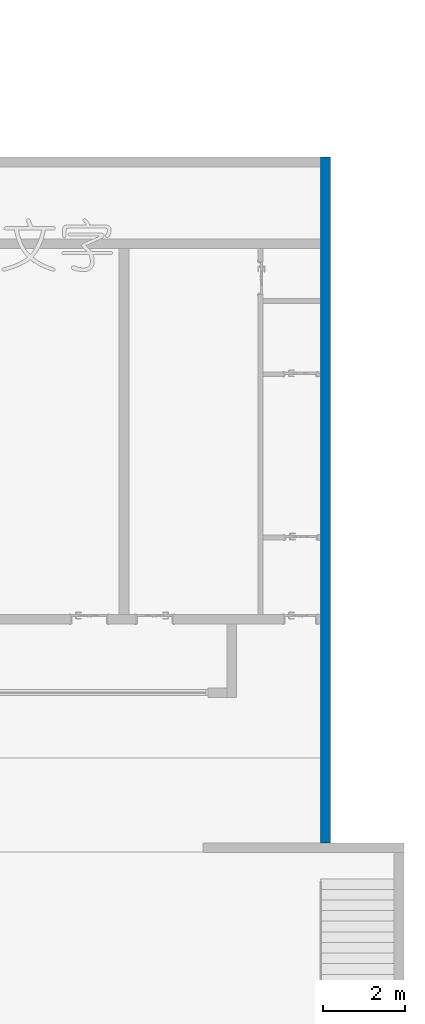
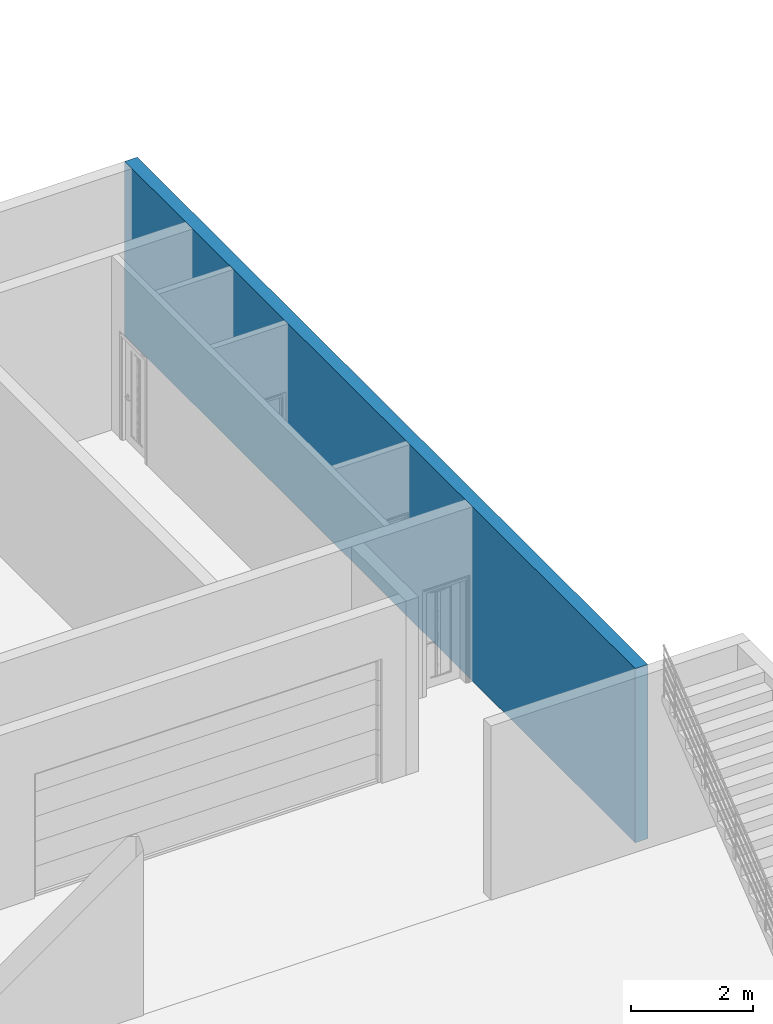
# One storey, part 14 of 24: 1 wall.
"""IFC2X3 building model written with IfcOpenShell, lengths in millimetres."""

import ifcopenshell
import ifcopenshell.guid

model = None  # the IFC model being written
_history = None  # IfcOwnerHistory: only IFC2X3 demands one
_inside = {}  # id of a spatial element -> (the spatial element, [elements in it])
_under = {}  # id of a project, library or spatial element -> (it, [spatial elements below it])
_declared = {}  # id of a project -> (the project, [libraries it declares])
_typed = {}  # id of a type object -> (the type object, [elements of that type])
_made_of = {}  # id of a material, layer set ... -> (it, [elements and type objects made of it])


def new_model(schema):
    """Start an empty IFC model of exactly this schema.

    Asked for "IFC4X3", IfcOpenShell would pick the latest addendum, in which some entities
    have other attributes; the version numbers below select the first issue.
    IFC2X3 requires an IfcOwnerHistory on every rooted entity: one is made here for all.
    """
    global model, _history
    if schema == "IFC4X3":
        model = ifcopenshell.file(schema_version=(4, 3, 0, 0))
    else:
        model = ifcopenshell.file(schema=schema)
    _inside.clear()
    _under.clear()
    _declared.clear()
    _typed.clear()
    _made_of.clear()
    _history = None
    if model.schema == "IFC2X3":
        org = make("IfcOrganization", Name="unknown")
        user = make(
            "IfcPersonAndOrganization",
            ThePerson=make("IfcPerson", FamilyName="unknown"),
            TheOrganization=org,
        )
        app = make(
            "IfcApplication",
            ApplicationDeveloper=org,
            Version="unknown",
            ApplicationFullName="unknown",
            ApplicationIdentifier="unknown",
        )
        _history = make(
            "IfcOwnerHistory",
            OwningUser=user,
            OwningApplication=app,
            ChangeAction="ADDED",
            CreationDate=0,
        )
    return model


def make(cls, **values):
    """One entity of the class cls with the attributes given. An attribute that is None is left unset."""
    return model.create_entity(
        cls, **{name: value for name, value in values.items() if value is not None}
    )


def entity(cls, *values):
    """Any entity or typed value of the class cls, its attributes in the order of the schema. None: left unset."""
    e = model.create_entity(cls)
    for i, value in enumerate(values):
        if value is not None:
            e[i] = value
    return e


def rooted(cls, **values):
    """An entity with a GlobalId (a new one), such as an element, a storey or a relation."""
    return make(cls, GlobalId=ifcopenshell.guid.new(), OwnerHistory=_history, **values)


def si_unit(unit_type, name, prefix=None):
    """IfcSIUnit, for example si_unit("LENGTHUNIT", "METRE", prefix="MILLI")."""
    return make("IfcSIUnit", UnitType=unit_type, Prefix=prefix, Name=name)


def converted_unit(unit_type, name, factor, base, dimensions=None, offset=None):
    """IfcConversionBasedUnit, such as the inch: factor (a typed value) times the base unit."""
    return make(
        "IfcConversionBasedUnit"
        if offset is None
        else "IfcConversionBasedUnitWithOffset",
        ConversionOffset=offset,
        Dimensions=None
        if dimensions is None
        else entity("IfcDimensionalExponents", *dimensions),
        UnitType=unit_type,
        Name=name,
        ConversionFactor=make(
            "IfcMeasureWithUnit", ValueComponent=factor, UnitComponent=base
        ),
    )


def derived_unit(unit_type, elements):
    """IfcDerivedUnit: a product of units, each with its exponent."""
    return make(
        "IfcDerivedUnit",
        Elements=[
            make("IfcDerivedUnitElement", Unit=unit, Exponent=power)
            for unit, power in elements
        ],
        UnitType=unit_type,
    )


def assignment(units):
    """IfcUnitAssignment: the units of a project."""
    return None if units is None else make("IfcUnitAssignment", Units=units)


def point(xyz):
    """IfcCartesianPoint."""
    return None if xyz is None else make("IfcCartesianPoint", Coordinates=xyz)


def direction(xyz):
    """IfcDirection."""
    return None if xyz is None else make("IfcDirection", DirectionRatios=xyz)


def frame(location, z_axis=None, x_axis=None):
    """IfcAxis2Placement3D, a coordinate frame: its origin and axes. An axis left out is left unset."""
    return make(
        "IfcAxis2Placement3D",
        Location=point(location),
        Axis=direction(z_axis),
        RefDirection=direction(x_axis),
    )


def frame_2d(location, x_axis=None):
    """IfcAxis2Placement2D, a coordinate frame in the plane: its origin and x axis."""
    return make(
        "IfcAxis2Placement2D", Location=point(location), RefDirection=direction(x_axis)
    )


def origin():
    """The frame at (0, 0, 0) with its axes left unset."""
    return frame((0.0, 0.0, 0.0))


def place(relative_to, where):
    """IfcLocalPlacement: puts the frame where relative to a parent placement (None: the world)."""
    return make(
        "IfcLocalPlacement", PlacementRelTo=relative_to, RelativePlacement=where
    )


def context(
    kind, dimensions, precision=None, world=None, true_north=None, identifier=None
):
    """IfcGeometricRepresentationContext, for example the 3D "Model" context."""
    return make(
        "IfcGeometricRepresentationContext",
        ContextIdentifier=identifier,
        ContextType=kind,
        CoordinateSpaceDimension=dimensions,
        Precision=precision,
        WorldCoordinateSystem=world,
        TrueNorth=true_north,
    )


def subcontext(parent, identifier, kind, view, scale=None):
    """IfcGeometricRepresentationSubContext, for example "Body" below "Model"."""
    return make(
        "IfcGeometricRepresentationSubContext",
        ContextIdentifier=identifier,
        ContextType=kind,
        ParentContext=parent,
        TargetScale=scale,
        TargetView=view,
    )


def project(units=None, contexts=None):
    """IfcProject with its units and contexts."""
    return rooted(
        "IfcProject",
        Name="project",
        RepresentationContexts=contexts,
        UnitsInContext=assignment(units),
    )


def spatial(cls, under=None, at=None, **own):
    """A site, building, storey or space (cls), placed at a placement, below another one or the project."""
    s = rooted(cls, ObjectPlacement=at, **own)
    if under is not None:
        _under.setdefault(under.id(), (under, []))[1].append(s)
    return s


def profile(cls, at=None, kind="AREA", **sizes):
    """A parametric profile (cls). Its sizes go by their IFC names, for example OverallWidth=200.0."""
    return make(cls, ProfileType=kind, Position=at, **sizes)


def rectangle(**sizes):
    """IfcRectangleProfileDef."""
    return profile("IfcRectangleProfileDef", **sizes)


def extrude(swept, where, along, depth):
    """IfcExtrudedAreaSolid: the profile swept, set in the frame where, extruded along a direction by depth."""
    return make(
        "IfcExtrudedAreaSolid",
        SweptArea=swept,
        Position=where,
        ExtrudedDirection=direction(along),
        Depth=depth,
    )


def shape(context_of_items, identifier, shape_type, items):
    """IfcShapeRepresentation: the items that make up one representation, for example the "Body"."""
    return make(
        "IfcShapeRepresentation",
        ContextOfItems=context_of_items,
        RepresentationIdentifier=identifier,
        RepresentationType=shape_type,
        Items=items,
    )


def material(Name=None, Category=None):
    """IfcMaterial."""
    return make("IfcMaterial", Name=Name, Category=Category)


def layer(
    of_material, thickness, ventilated=None, Name=None, Category=None, Priority=None
):
    """IfcMaterialLayer: one layer of a wall or slab, of a material (None: an air gap)."""
    return make(
        "IfcMaterialLayer",
        Material=of_material,
        LayerThickness=thickness,
        IsVentilated=ventilated,
        Name=Name,
        Category=Category,
        Priority=Priority,
    )


def layer_set(layers, Name=None):
    """IfcMaterialLayerSet."""
    return make("IfcMaterialLayerSet", MaterialLayers=layers, LayerSetName=Name)


def layer_usage(for_layer_set, set_direction, sense, offset, extent=None):
    """IfcMaterialLayerSetUsage: how a layer set lies in its element."""
    return make(
        "IfcMaterialLayerSetUsage",
        ForLayerSet=for_layer_set,
        LayerSetDirection=set_direction,
        DirectionSense=sense,
        OffsetFromReferenceLine=offset,
        ReferenceExtent=extent,
    )


def made_of(thing, what):
    """Note that an element or type object is made of a material, layer set ...; save() writes the relation."""
    if what is not None:
        _made_of.setdefault(what.id(), (what, []))[1].append(thing)
    return thing


def type_object(cls, material=None, **own):
    """A type object (cls), such as IfcWallType, which elements share."""
    return made_of(rooted(cls, **own), material)


def element(
    cls,
    number,
    at=None,
    inside=None,
    cuts=None,
    type_object=None,
    material=None,
    context=None,
    identifier="Body",
    shape_type=None,
    held_by="IfcProductDefinitionShape",
    body=None,
    shapes=None,
    **own,
):
    """One element of the class cls, such as IfcWall. Its Tag is "e" and its number.

    at: its placement. inside: the storey or other place that contains it. cuts: it is an
    opening in that element (IfcRelVoidsElement). A single representation is given by context,
    identifier, shape_type and body (its items); several are given by shapes. held_by: the class
    of the entity that holds the representations. save() writes the other relations.
    """
    e = rooted(cls, Tag="e%d" % number, ObjectPlacement=at, **own)
    if body is not None:
        shapes = [shape(context, identifier, shape_type, body)]
    if shapes is not None:
        e.Representation = make(held_by, Representations=shapes)
    if inside is not None:
        _inside.setdefault(inside.id(), (inside, []))[1].append(e)
    if cuts is not None:
        rooted(
            "IfcRelVoidsElement", RelatingBuildingElement=cuts, RelatedOpeningElement=e
        )
    if type_object is not None:
        _typed.setdefault(type_object.id(), (type_object, []))[1].append(e)
    return made_of(e, material)


def aggregate(whole, parts):
    """IfcRelAggregates: a whole, such as a stair, and the parts it consists of."""
    return rooted("IfcRelAggregates", RelatingObject=whole, RelatedObjects=parts)


def save(model, path):
    """Write the relations noted so far, then the file.

    IfcRelAggregates (storeys below a building ...), IfcRelContainedInSpatialStructure (elements
    in a storey), IfcRelDefinesByType, IfcRelAssociatesMaterial and IfcRelDeclares: one each for
    every whole, place, type object, material and project.
    """
    for whole, parts in _under.values():
        aggregate(whole, parts)
    for where, things in _inside.values():
        rooted(
            "IfcRelContainedInSpatialStructure",
            RelatedElements=things,
            RelatingStructure=where,
        )
    for kind, things in _typed.values():
        rooted("IfcRelDefinesByType", RelatedObjects=things, RelatingType=kind)
    for what, things in _made_of.values():
        rooted("IfcRelAssociatesMaterial", RelatedObjects=things, RelatingMaterial=what)
    for by, libraries in _declared.values():
        rooted("IfcRelDeclares", RelatingContext=by, RelatedDefinitions=libraries)
    model.write(path)


model = new_model("IFC2X3")

# Units and contexts
model_context = context("Model", 3, precision=0.01, world=origin(), true_north=direction((6.12303176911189e-17, 1.0)))
body_context = subcontext(model_context, "Body", "Model", "MODEL_VIEW")
ifc_project = project(units=[si_unit("LENGTHUNIT", "METRE", prefix="MILLI"), si_unit("AREAUNIT", "SQUARE_METRE"), si_unit("VOLUMEUNIT", "CUBIC_METRE"), converted_unit("PLANEANGLEUNIT", "DEGREE", entity("IfcRatioMeasure", 0.0174532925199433), si_unit("PLANEANGLEUNIT", "RADIAN"), dimensions=[0, 0, 0, 0, 0, 0, 0]), si_unit("MASSUNIT", "GRAM", prefix="KILO"), derived_unit("MASSDENSITYUNIT", [(si_unit("MASSUNIT", "GRAM", prefix="KILO"), 1), (si_unit("LENGTHUNIT", "METRE"), -3)]), si_unit("TIMEUNIT", "SECOND"), si_unit("FREQUENCYUNIT", "HERTZ"), si_unit("THERMODYNAMICTEMPERATUREUNIT", "DEGREE_CELSIUS"), derived_unit("THERMALTRANSMITTANCEUNIT", [(si_unit("MASSUNIT", "GRAM", prefix="KILO"), 1), (si_unit("THERMODYNAMICTEMPERATUREUNIT", "KELVIN"), -1), (si_unit("TIMEUNIT", "SECOND"), -3)]), derived_unit("VOLUMETRICFLOWRATEUNIT", [(si_unit("LENGTHUNIT", "METRE"), 3), (si_unit("TIMEUNIT", "SECOND"), -1)]), si_unit("ELECTRICCURRENTUNIT", "AMPERE"), si_unit("ELECTRICVOLTAGEUNIT", "VOLT"), si_unit("POWERUNIT", "WATT"), si_unit("FORCEUNIT", "NEWTON", prefix="KILO"), si_unit("ILLUMINANCEUNIT", "LUX"), si_unit("LUMINOUSFLUXUNIT", "LUMEN"), si_unit("LUMINOUSINTENSITYUNIT", "CANDELA"), derived_unit("USERDEFINED", [(si_unit("MASSUNIT", "GRAM", prefix="KILO"), -1), (si_unit("LENGTHUNIT", "METRE"), -2), (si_unit("TIMEUNIT", "SECOND"), 3), (si_unit("LUMINOUSFLUXUNIT", "LUMEN"), 1)]), derived_unit("LINEARVELOCITYUNIT", [(si_unit("LENGTHUNIT", "METRE"), 1), (si_unit("TIMEUNIT", "SECOND"), -1)]), si_unit("PRESSUREUNIT", "PASCAL"), derived_unit("USERDEFINED", [(si_unit("LENGTHUNIT", "METRE"), -2), (si_unit("MASSUNIT", "GRAM", prefix="KILO"), 1), (si_unit("TIMEUNIT", "SECOND"), -2)])], contexts=[model_context])

# Site, building, storey
site_placement = place(None, origin())
site = spatial("IfcSite", under=ifc_project, at=site_placement, Name="表面", CompositionType="ELEMENT")
building_placement = place(site_placement, origin())
building = spatial("IfcBuilding", under=site, at=building_placement, CompositionType="ELEMENT")
storey_placement = place(building_placement, frame((0.0, 0.0, -3500.0)))
storey = spatial("IfcBuildingStorey", under=building, at=storey_placement, Name="-1F", CompositionType="ELEMENT", Elevation=-3500.0)

# Wall
ifc_material_1 = material(Name="白色涂料")
ifc_layer_1 = layer(ifc_material_1, 10.0)
ifc_material_2 = material(Name="默认墙")
ifc_layer_2 = layer(ifc_material_2, 220.0)
ifc_layer_3 = layer(ifc_material_1, 10.0)
ifc_layer_set = layer_set([ifc_layer_1, ifc_layer_2, ifc_layer_3], Name="基本墙:粉刷墙240")
ifc_layer_usage = layer_usage(ifc_layer_set, "AXIS2", "NEGATIVE", 120.0)
wall_type = type_object("IfcWallType", Name="基本墙:粉刷墙240", PredefinedType="STANDARD", material=ifc_layer_set)
wall_placement = place(storey_placement, frame((10769.7500873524, 2612.15408702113, 0.0), z_axis=(0.0, 0.0, 1.0), x_axis=(0.0, -1.0, 0.0)))
element("IfcWallStandardCase", 1, at=wall_placement, inside=storey, type_object=wall_type, material=ifc_layer_usage, Name="基本墙:粉刷墙240", ObjectType="基本墙:粉刷墙240", context=body_context, shape_type="SweptSolid", body=[
    extrude(rectangle(XDim=16800.0, YDim=240.000000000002, at=frame_2d((8399.99999999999, 0.0), x_axis=(-1.0, 0.0))), origin(), (0.0, 0.0, 1.0), 3500.0),
])

save(model, "model.ifc")
